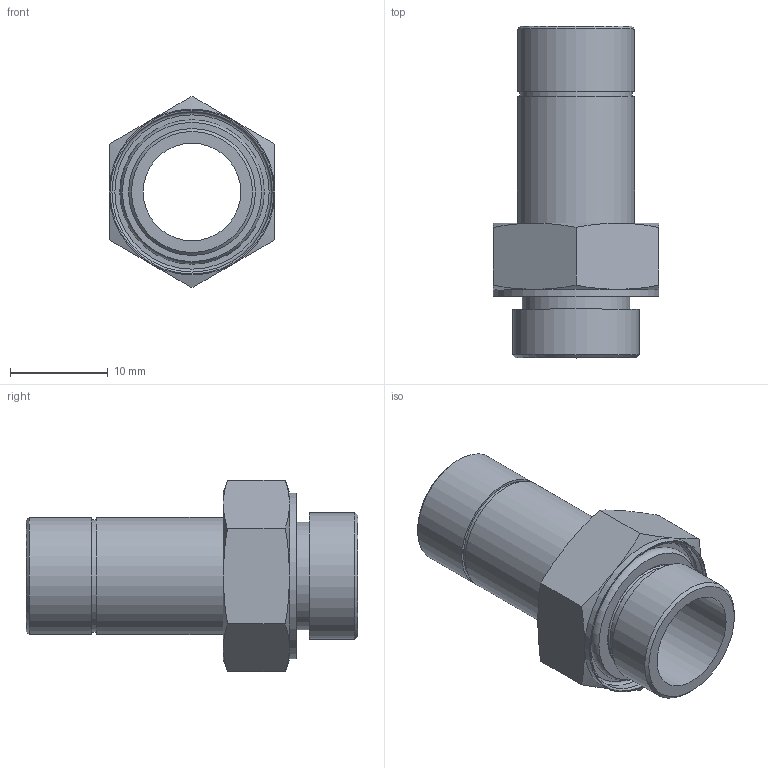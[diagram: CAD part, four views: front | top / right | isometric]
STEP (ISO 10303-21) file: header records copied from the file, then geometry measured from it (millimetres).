
FILE_DESCRIPTION(/* description */ (''),/* implementation_level */ '2;1');
FILE_NAME(/* name */ 'LXH16 0012 B2.stp',/* time_stamp */ '2026-04-29T14:53:05+02:00',/* author */ ('freju'),/* organization */ (''),/* preprocessor_version */ 'ST-DEVELOPER v20.1',/* originating_system */ 'Autodesk Inventor 2026',/* authorisation */ '');
FILE_SCHEMA (('AUTOMOTIVE_DESIGN { 1 0 10303 214 3 1 1 }'));
Length unit declared in the file: millimetre
Products named in the file (4): LXH16 0012 B2; LXH16 0012 B2_1; O-Ring; ISO 3601-1 - A 0112 G
Assembly tree (3 placements, depth 3):
  LXH16 0012 B2
    LXH16 0012 B2_1
    O-Ring
      ISO 3601-1 - A 0112 G
Bounding box: 17 x 34 x 19.63 mm (x, y, z)
Volume: 2190 mm3; surface area: 3242.9 mm2
Topology: 2 solids, 2 shells, 46 faces, 92 edges, 57 vertices
Faces by surface type: plane 17, cone 14, cylinder 9, torus 6
Full cylindrical faces by diameter (mm): 10 x1, 11 x1, 11.2 x1, 11.5 x1, 12 x2, 13 x1, 16.4 x1, 17 x1
Entity records: 1329 total; most frequent: CARTESIAN_POINT 250, DIRECTION 225, ORIENTED_EDGE 184, AXIS2_PLACEMENT_3D 104, EDGE_CURVE 92, EDGE_LOOP 57, VERTEX_POINT 57, CIRCLE 51
